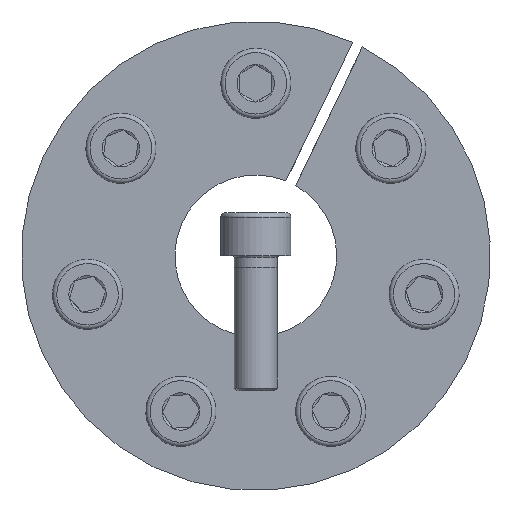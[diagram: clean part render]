
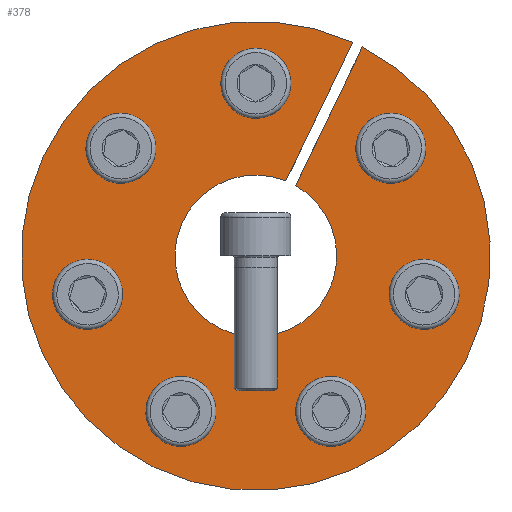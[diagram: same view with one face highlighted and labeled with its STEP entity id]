
A CAD part, front view. The second image highlights one B-rep face of the part: STEP entity #378.
In plain terms, the highlighted planar face has unit normal (0, -1, 0).
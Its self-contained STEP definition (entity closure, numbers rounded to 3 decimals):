
#378 = ADVANCED_FACE( '', ( #598, #599, #600, #601, #602, #603, #604, #605 ), #606, .F. );
#598 = FACE_OUTER_BOUND( '', #752, .T. );
#599 = FACE_BOUND( '', #753, .T. );
#600 = FACE_BOUND( '', #754, .T. );
#601 = FACE_BOUND( '', #755, .T. );
#602 = FACE_BOUND( '', #756, .T. );
#603 = FACE_BOUND( '', #757, .T. );
#604 = FACE_BOUND( '', #758, .T. );
#605 = FACE_BOUND( '', #759, .T. );
#606 = PLANE( '', #760 );
#752 = EDGE_LOOP( '', ( #978, #979, #980, #981 ) );
#753 = EDGE_LOOP( '', ( #982 ) );
#754 = EDGE_LOOP( '', ( #983 ) );
#755 = EDGE_LOOP( '', ( #984 ) );
#756 = EDGE_LOOP( '', ( #985 ) );
#757 = EDGE_LOOP( '', ( #986 ) );
#758 = EDGE_LOOP( '', ( #987 ) );
#759 = EDGE_LOOP( '', ( #988 ) );
#760 = AXIS2_PLACEMENT_3D( '', #989, #990, #991 );
#978 = ORIENTED_EDGE( '', *, *, #1249, .T. );
#979 = ORIENTED_EDGE( '', *, *, #1232, .T. );
#980 = ORIENTED_EDGE( '', *, *, #1263, .T. );
#981 = ORIENTED_EDGE( '', *, *, #1270, .F. );
#982 = ORIENTED_EDGE( '', *, *, #1271, .F. );
#983 = ORIENTED_EDGE( '', *, *, #1272, .F. );
#984 = ORIENTED_EDGE( '', *, *, #1273, .F. );
#985 = ORIENTED_EDGE( '', *, *, #1233, .F. );
#986 = ORIENTED_EDGE( '', *, *, #1274, .F. );
#987 = ORIENTED_EDGE( '', *, *, #1275, .F. );
#988 = ORIENTED_EDGE( '', *, *, #1276, .F. );
#989 = CARTESIAN_POINT( '', ( 0., 0., 43.5 ) );
#990 = DIRECTION( '', ( 0., 1., 0. ) );
#991 = DIRECTION( '', ( 1., 0., 0. ) );
#1232 = EDGE_CURVE( '', #1351, #1355, #1357, .T. );
#1233 = EDGE_CURVE( '', #1358, #1358, #1359, .T. );
#1249 = EDGE_CURVE( '', #1389, #1351, #1390, .T. );
#1263 = EDGE_CURVE( '', #1355, #1411, #1413, .T. );
#1270 = EDGE_CURVE( '', #1389, #1411, #1426, .T. );
#1271 = EDGE_CURVE( '', #1427, #1427, #1428, .T. );
#1272 = EDGE_CURVE( '', #1429, #1429, #1430, .T. );
#1273 = EDGE_CURVE( '', #1431, #1431, #1432, .T. );
#1274 = EDGE_CURVE( '', #1433, #1433, #1434, .T. );
#1275 = EDGE_CURVE( '', #1435, #1435, #1436, .T. );
#1276 = EDGE_CURVE( '', #1437, #1437, #1438, .T. );
#1351 = VERTEX_POINT( '', #1457 );
#1355 = VERTEX_POINT( '', #1462 );
#1357 = CIRCLE( '', #1465, 43.5 );
#1358 = VERTEX_POINT( '', #1466 );
#1359 = CIRCLE( '', #1467, 4.5 );
#1389 = VERTEX_POINT( '', #1505 );
#1390 = LINE( '', #1506, #1507 );
#1411 = VERTEX_POINT( '', #1543 );
#1413 = LINE( '', #1546, #1547 );
#1426 = CIRCLE( '', #1560, 15. );
#1427 = VERTEX_POINT( '', #1561 );
#1428 = CIRCLE( '', #1562, 4.5 );
#1429 = VERTEX_POINT( '', #1563 );
#1430 = CIRCLE( '', #1564, 4.5 );
#1431 = VERTEX_POINT( '', #1565 );
#1432 = CIRCLE( '', #1566, 4.5 );
#1433 = VERTEX_POINT( '', #1567 );
#1434 = CIRCLE( '', #1568, 4.5 );
#1435 = VERTEX_POINT( '', #1569 );
#1436 = CIRCLE( '', #1570, 4.5 );
#1437 = VERTEX_POINT( '', #1571 );
#1438 = CIRCLE( '', #1572, 4.5 );
#1457 = CARTESIAN_POINT( '', ( 17.968, 0., 39.616 ) );
#1462 = CARTESIAN_POINT( '', ( 19.77, 0., 38.748 ) );
#1465 = AXIS2_PLACEMENT_3D( '', #1595, #1596, #1597 );
#1466 = CARTESIAN_POINT( '', ( 9.83, 0., -30.783 ) );
#1467 = AXIS2_PLACEMENT_3D( '', #1598, #1599, #1600 );
#1505 = CARTESIAN_POINT( '', ( 5.593, 0., 13.918 ) );
#1506 = CARTESIAN_POINT( '', ( 5.593, 0., 13.918 ) );
#1507 = VECTOR( '', #1636, 1000. );
#1543 = CARTESIAN_POINT( '', ( 7.395, 0., 13.051 ) );
#1546 = CARTESIAN_POINT( '', ( 19.775, 0., 38.758 ) );
#1547 = VECTOR( '', #1650, 1000. );
#1560 = AXIS2_PLACEMENT_3D( '', #1669, #1670, #1671 );
#1561 = CARTESIAN_POINT( '', ( 4.5, 0., 32. ) );
#1562 = AXIS2_PLACEMENT_3D( '', #1672, #1673, #1674 );
#1563 = CARTESIAN_POINT( '', ( 27.824, 0., 16.433 ) );
#1564 = AXIS2_PLACEMENT_3D( '', #1675, #1676, #1677 );
#1565 = CARTESIAN_POINT( '', ( 30.196, 0., -11.508 ) );
#1566 = AXIS2_PLACEMENT_3D( '', #1678, #1679, #1680 );
#1567 = CARTESIAN_POINT( '', ( -17.939, 0., -26.879 ) );
#1568 = AXIS2_PLACEMENT_3D( '', #1681, #1682, #1683 );
#1569 = CARTESIAN_POINT( '', ( -32.199, 0., -2.733 ) );
#1570 = AXIS2_PLACEMENT_3D( '', #1684, #1685, #1686 );
#1571 = CARTESIAN_POINT( '', ( -22.213, 0., 23.47 ) );
#1572 = AXIS2_PLACEMENT_3D( '', #1687, #1688, #1689 );
#1595 = CARTESIAN_POINT( '', ( 0., 0., 0. ) );
#1596 = DIRECTION( '', ( 0., -1., 0. ) );
#1597 = DIRECTION( '', ( 0., 0., -1. ) );
#1598 = CARTESIAN_POINT( '', ( 13.884, 0., -28.831 ) );
#1599 = DIRECTION( '', ( 0., -1., 0. ) );
#1600 = DIRECTION( '', ( -0.901, 0., -0.434 ) );
#1636 = DIRECTION( '', ( 0.434, 0., 0.901 ) );
#1650 = DIRECTION( '', ( -0.434, 0., -0.901 ) );
#1669 = CARTESIAN_POINT( '', ( 0., 0., 0. ) );
#1670 = DIRECTION( '', ( 0., -1., 0. ) );
#1671 = DIRECTION( '', ( 0., 0., -1. ) );
#1672 = CARTESIAN_POINT( '', ( 0., 0., 32. ) );
#1673 = DIRECTION( '', ( 0., -1., 0. ) );
#1674 = DIRECTION( '', ( 1., 0., 0. ) );
#1675 = CARTESIAN_POINT( '', ( 25.019, 0., 19.952 ) );
#1676 = DIRECTION( '', ( 0., -1., 0. ) );
#1677 = DIRECTION( '', ( 0.623, 0., -0.782 ) );
#1678 = CARTESIAN_POINT( '', ( 31.198, 0., -7.121 ) );
#1679 = DIRECTION( '', ( 0., -1., 0. ) );
#1680 = DIRECTION( '', ( -0.223, 0., -0.975 ) );
#1681 = CARTESIAN_POINT( '', ( -13.884, 0., -28.831 ) );
#1682 = DIRECTION( '', ( 0., -1., 0. ) );
#1683 = DIRECTION( '', ( -0.901, 0., 0.434 ) );
#1684 = CARTESIAN_POINT( '', ( -31.198, 0., -7.121 ) );
#1685 = DIRECTION( '', ( 0., -1., 0. ) );
#1686 = DIRECTION( '', ( -0.223, 0., 0.975 ) );
#1687 = CARTESIAN_POINT( '', ( -25.019, 0., 19.952 ) );
#1688 = DIRECTION( '', ( 0., -1., 0. ) );
#1689 = DIRECTION( '', ( 0.623, 0., 0.782 ) );
